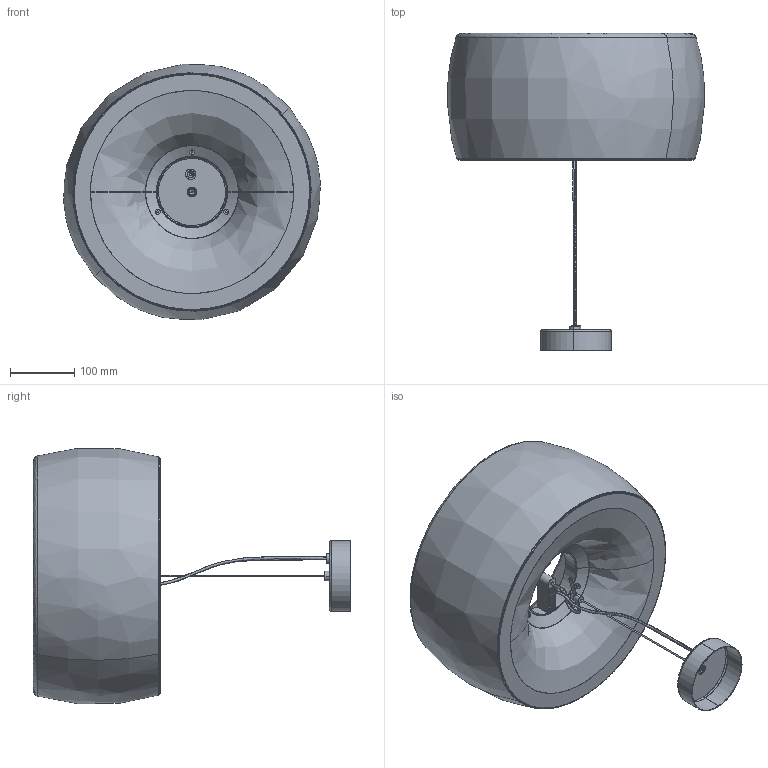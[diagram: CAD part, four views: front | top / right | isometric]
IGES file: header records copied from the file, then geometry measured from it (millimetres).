
Start section: SolidWorks IGES file using analytic representation for surfaces
Global section: file name: C:\Users\tungari.NEMOLIGHTING\Desktop\3D\PENDANT\3D_SIRIUS_OKOK\NO_DEF\3D_SIRIUS_PENDANT.IGS; native system: SolidWorks 2016; preprocessor: SolidWorks 2016; author: tungari; date: 180411.123025; units: millimetre
Bounding box: 398.32 x 492.95 x 396.53 mm (x, y, z)
Surface area: 1130072.1 mm2 (no closed solid volume)
Topology: 0 solids, 0 shells, 700 faces, 10240 edges, 10235 vertices
Faces by surface type: revolution 358, bspline 342
